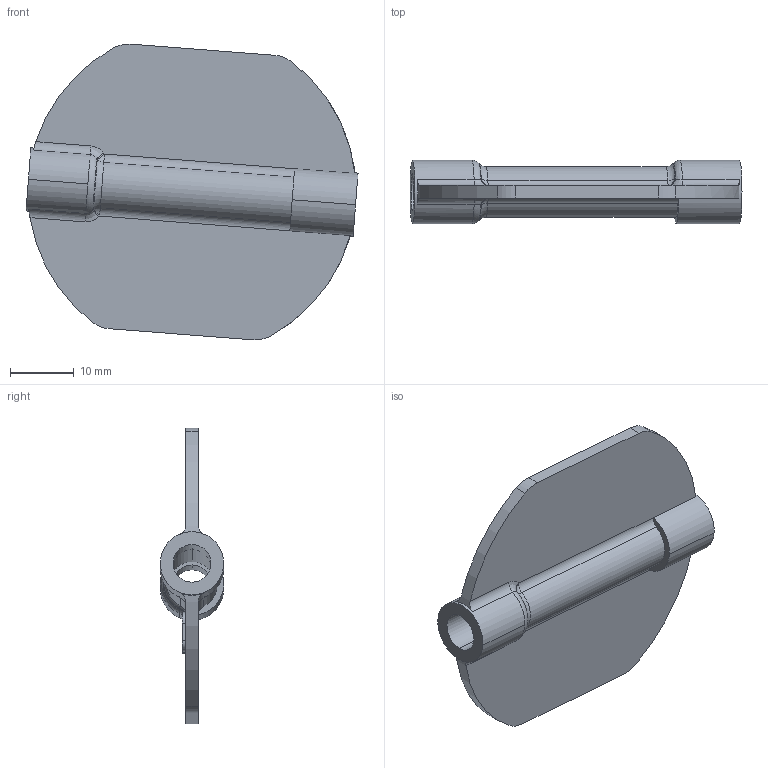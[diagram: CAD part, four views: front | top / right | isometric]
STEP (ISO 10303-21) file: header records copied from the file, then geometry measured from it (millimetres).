
FILE_DESCRIPTION((''),'2;1');
FILE_NAME('0000237054_PRT','2025-11-12T18:39:10',('Wyndorps'),(''),'CREO PARAMETRIC BY PTC INC, 2025010','CREO PARAMETRIC BY PTC INC, 2025010','');
FILE_SCHEMA(('CONFIG_CONTROL_DESIGN'));
Length unit declared in the file: millimetre
Products named in the file (1): 0000237054_PRT
Bounding box: 52.28 x 10 x 46.57 mm (x, y, z)
Volume: 4519.7 mm3; surface area: 5772.9 mm2
Topology: 1 solids, 1 shells, 95 faces, 232 edges, 144 vertices
Faces by surface type: cylinder 30, plane 28, bspline 12, extrusion 10, torus 6, sphere 6, cone 3
Entity records: 3485 total; most frequent: CARTESIAN_POINT 1298, ORIENTED_EDGE 464, DIRECTION 416, EDGE_CURVE 232, AXIS2_PLACEMENT_3D 155, VERTEX_POINT 144, VECTOR 106, EDGE_LOOP 102
